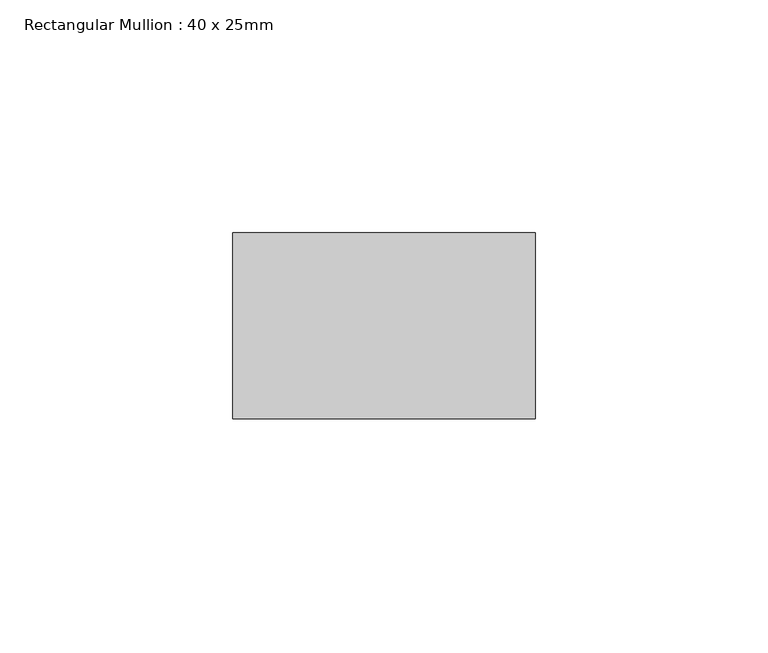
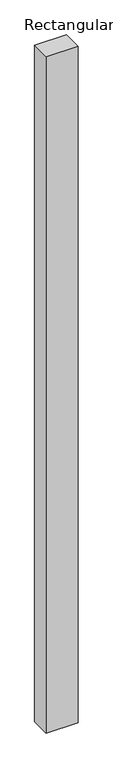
"""IFC4 building model written with IfcOpenShell, lengths in millimetres: member geometry, Rectangular Mullion : 40 x 25mm."""

from ifc_helpers import new_model, si_unit, frame, origin, place, context, project, spatial, polyline, outline, extrude, source, transform, mapped, element, save


def rectangular_mullion_40_x_25mm_e2d0576d(model_context):
    return source(origin(), model_context, "Body", "SweptSolid", [
        extrude(outline(polyline([(40.0, -20.0), (40.0, -60.0), (-25.0, -60.0), (-25.0, -20.0), (40.0, -20.0)])), frame((0.0, 0.0, -1457.6023033), z_axis=(0.0, 0.0, 1.0), x_axis=(1.0, 0.0, 0.0)), (0.0, 0.0, 1.0), 1457.6023033),
    ])


if __name__ == "__main__":
    model = new_model("IFC4")
    model_context = context("Model", 3, world=origin())
    ifc_project = project(units=[si_unit("LENGTHUNIT", "METRE", prefix="MILLI")], contexts=[model_context])
    site = spatial("IfcSite", under=ifc_project)
    building = spatial("IfcBuilding", under=site)
    placement = place(None, origin())
    rectangular_mullion_40_x_25mm_shape = rectangular_mullion_40_x_25mm_e2d0576d(model_context)
    element("IfcMember", 1, ObjectType="Rectangular Mullion : 40 x 25mm", at=placement, inside=building, context=model_context, shape_type="MappedRepresentation", body=[
        mapped(rectangular_mullion_40_x_25mm_shape, transform((0.0, 0.0, 0.0), x_axis=(1.0, 0.0, 0.0), y_axis=(0.0, 1.0, 0.0), z_axis=(0.0, 0.0, 1.0))),
    ])
    save(model, "model.ifc")
